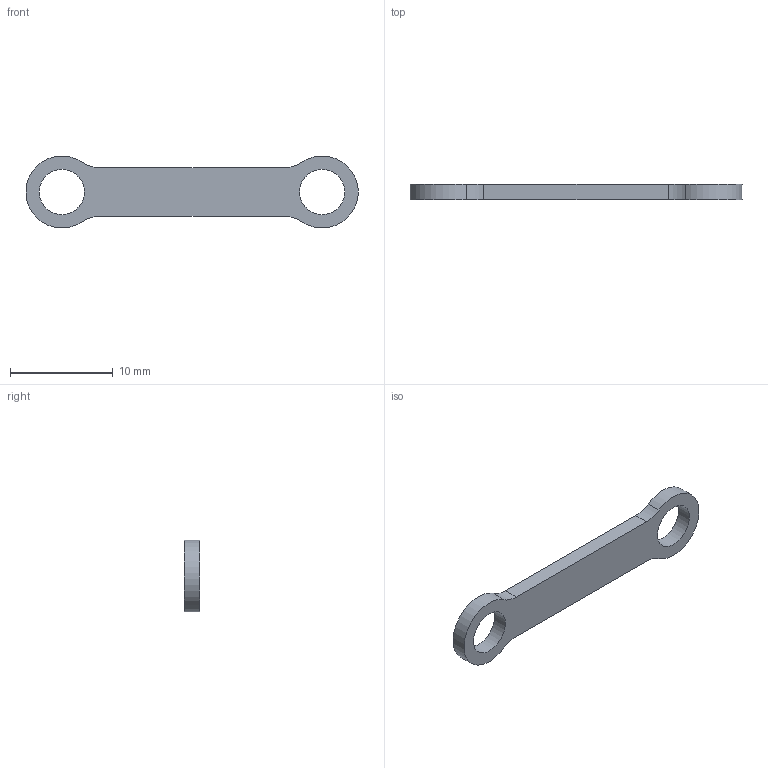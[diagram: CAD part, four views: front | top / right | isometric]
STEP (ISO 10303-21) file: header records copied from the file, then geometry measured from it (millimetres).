
FILE_DESCRIPTION(/* description */ (''),/* implementation_level */ '2;1');
FILE_NAME(/* name */ '2.stp',/* time_stamp */ '2026-08-07T11:18:40+08:00',/* author */ (''),/* organization */ (''),/* preprocessor_version */ 'ST-DEVELOPER v16.7',/* originating_system */ 'SIEMENS PLM Software NX 12.0',/* authorisation */ '');
FILE_SCHEMA (('AUTOMOTIVE_DESIGN { 1 0 10303 214 3 1 1 1 }'));
Length unit declared in the file: millimetre
Products named in the file (1): 2
Bounding box: 32.27 x 1.5 x 6.98 mm (x, y, z)
Volume: 203.6 mm3; surface area: 423.2 mm2
Topology: 1 solids, 1 shells, 12 faces, 30 edges, 20 vertices
Faces by surface type: cylinder 8, plane 4
Full cylindrical faces by diameter (mm): 4.4 x2
Entity records: 402 total; most frequent: DIRECTION 72, CARTESIAN_POINT 63, ORIENTED_EDGE 60, EDGE_CURVE 30, AXIS2_PLACEMENT_3D 29, VERTEX_POINT 20, EDGE_LOOP 16, CIRCLE 16
